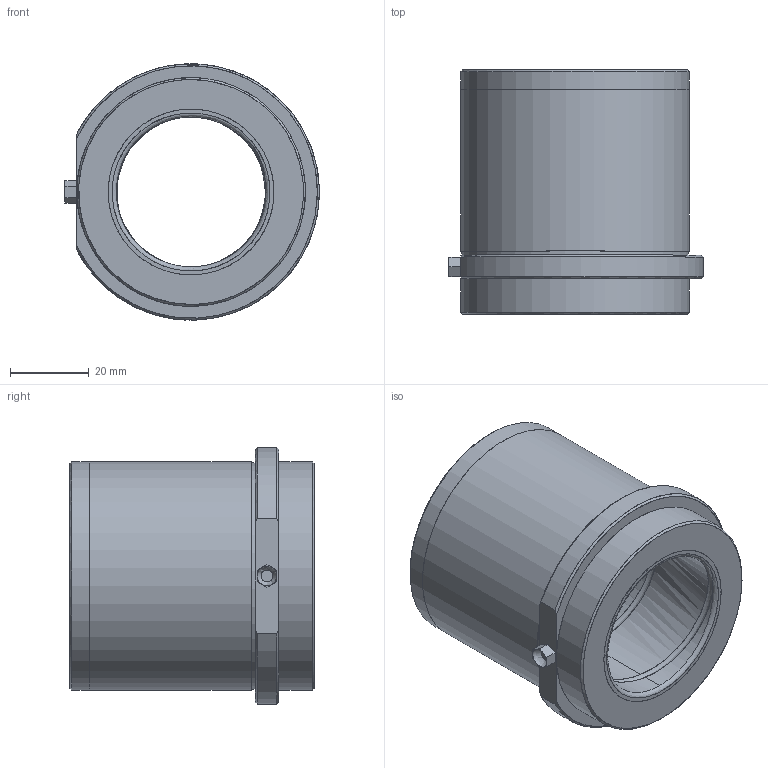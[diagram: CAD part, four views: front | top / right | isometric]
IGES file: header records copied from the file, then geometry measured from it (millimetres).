
Start section: Missler Software BP 521, 31674 Labege Cedex, France Tel   : +33 (0)5 61 00 03 00 Fax   : +33 (0)5 61 00 03 03 Email : sup.topsolid@topsolid.com
Global section: file name: C:\Documents and Settings\EXPER\Desktop\Cuma\24 03 2009\D26\D26_38X47.igs; native system: TopSolid v605250 Missler Software; preprocessor: IGES preprocessor v100000; date: 030102.053301; units: millimetre
Bounding box: 64.48 x 62 x 64.97 mm (x, y, z)
Surface area: 39228 mm2 (no closed solid volume)
Topology: 0 solids, 0 shells, 53 faces, 980 edges, 959 vertices
Faces by surface type: bspline 53
